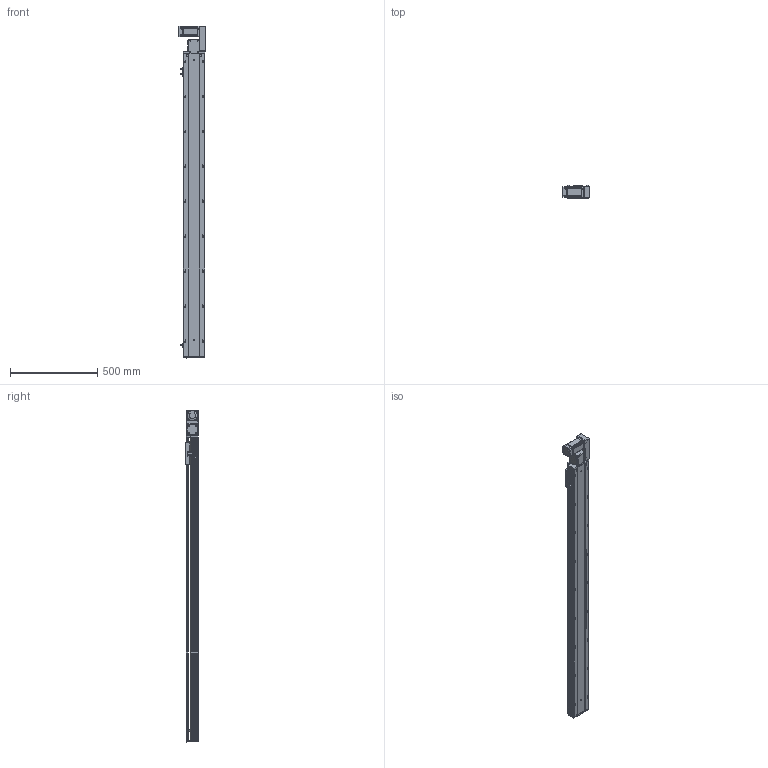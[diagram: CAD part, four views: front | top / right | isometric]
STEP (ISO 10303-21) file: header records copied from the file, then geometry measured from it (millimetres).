
FILE_DESCRIPTION (( 'STEP AP203' ), '1' );
FILE_NAME ('RY120-T-300-RK.SLDASM_1500.step', '2021-03-01T03:54:28', ( '盈信电脑' ), ( '东莞市道滘镇水果街19号' ), 'SwSTEP 2.0', 'SolidWorks 2012', '' );
FILE_SCHEMA (( 'CONFIG_CONTROL_DESIGN' ));
Length unit declared in the file: millimetre
Products named in the file (17): RY120-T-300-RK.SLDASM_1500; RY120-T主同步轮轴承压盖; RY120-T萇儂欶; RY120-T蹟翐M4; RY120-T萇儂假蚾啣; 15; 滅袉蝶18-10; RY120-T翋肮祭謫裔啣; RY120-T肮祭湍揤踡輸1; RY120-T翋肮祭盓傅釱; RY120外置感应片(140共用）; RY120-T肮祭湍揤踡輸2; RY120-T-300-RK倰第奻裔啣_1500; RY120綴裔啣; 覜茼ん672; RY120肮祭湍臏賑輸; RY120-T-300-RK倰第菁釱_1500
Assembly tree (22 placements, depth 2):
  RY120-T-300-RK.SLDASM_1500
    RY120-T-300-RK倰第菁釱_1500
    RY120-T-300-RK倰第奻裔啣_1500
    RY120肮祭湍臏賑輸
    RY120綴裔啣
    覜茼ん672  x3
    RY120外置感应片(140共用）
    RY120-T肮祭湍揤踡輸1
    RY120-T肮祭湍揤踡輸2
    RY120-T翋肮祭盓傅釱
    滅袉蝶18-10  x2
    RY120-T翋肮祭謫裔啣
    15
    RY120-T萇儂假蚾啣
    RY120-T蹟翐M4  x4
    RY120-T萇儂欶
    RY120-T主同步轮轴承压盖
Bounding box: 155.5 x 73 x 1897.5 mm (x, y, z)
Volume: 4711923.7 mm3; surface area: 1784425.5 mm2
Topology: 23 solids, 23 shells, 2968 faces, 8104 edges, 5176 vertices
Faces by surface type: plane 1432, cylinder 1158, cone 289, bspline 89
Entity records: 94885 total; most frequent: CARTESIAN_POINT 24446, ORIENTED_EDGE 14560, DIRECTION 13766, EDGE_CURVE 7280, VERTEX_POINT 4763, AXIS2_PLACEMENT_3D 4647, LINE 4472, VECTOR 4472
